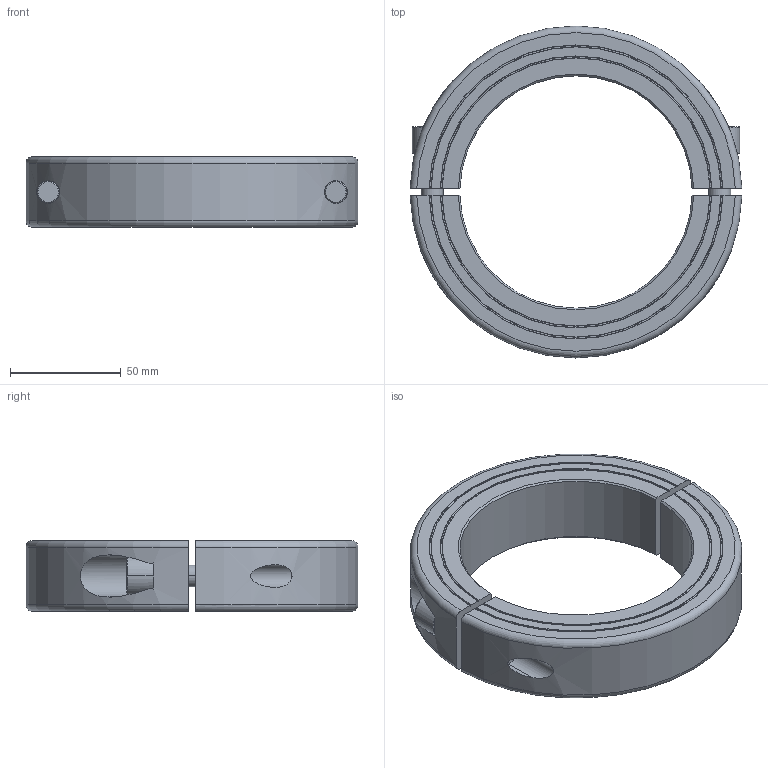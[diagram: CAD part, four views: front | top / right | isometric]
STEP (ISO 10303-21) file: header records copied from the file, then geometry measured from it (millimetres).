
FILE_DESCRIPTION((''),'2;1');
FILE_NAME('MSPH-105-F','2016-09-09T',('SYSTEM'),(''),'PRO/ENGINEER BY PARAMETRIC TECHNOLOGY CORPORATION, 2015110','PRO/ENGINEER BY PARAMETRIC TECHNOLOGY CORPORATION, 2015110','');
FILE_SCHEMA(('AUTOMOTIVE_DESIGN { 1 0 10303 214 1 1 1 1 }'));
Length unit declared in the file: millimetre
Products named in the file (1): MSPH-105-F
Bounding box: 149.97 x 150 x 32 mm (x, y, z)
Volume: 272381.1 mm3; surface area: 53390.5 mm2
Topology: 2 solids, 2 shells, 90 faces, 222 edges, 144 vertices
Faces by surface type: plane 36, cylinder 26, cone 20, torus 8
Entity records: 3556 total; most frequent: CARTESIAN_POINT 751, ORIENTED_EDGE 444, DIRECTION 430, EDGE_CURVE 222, AXIS2_PLACEMENT_3D 168, VERTEX_POINT 144, EDGE_LOOP 102, VECTOR 94
